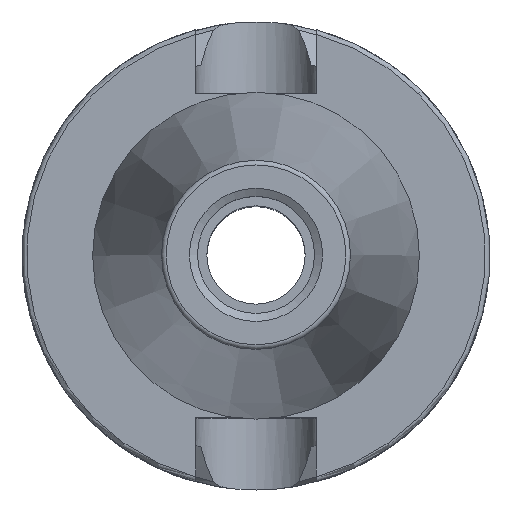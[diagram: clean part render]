
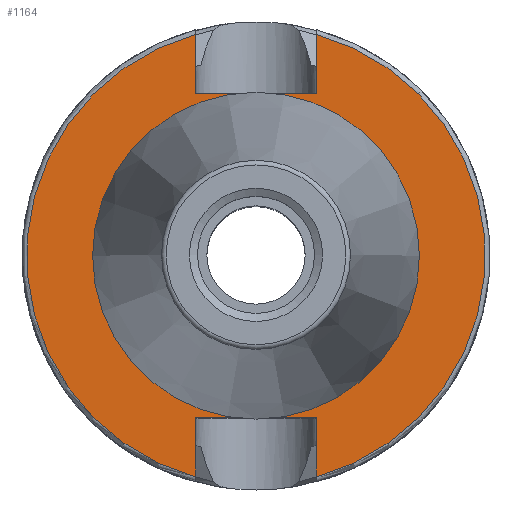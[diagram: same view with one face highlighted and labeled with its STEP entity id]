
A CAD part, top view. The second image highlights one B-rep face of the part: STEP entity #1164.
In plain terms, the highlighted planar face has unit normal (0, 0, 1).
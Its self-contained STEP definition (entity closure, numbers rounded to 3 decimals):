
#71=FACE_BOUND('',#230,.T.);
#91=PLANE('',#1288);
#159=FACE_OUTER_BOUND('',#229,.T.);
#229=EDGE_LOOP('',(#960,#961,#962,#963,#964,#965,#966,#967));
#230=EDGE_LOOP('',(#968));
#305=LINE('',#2315,#384);
#307=LINE('',#2364,#386);
#312=LINE('',#2395,#391);
#315=LINE('',#2403,#394);
#316=LINE('',#2407,#395);
#317=LINE('',#2408,#396);
#384=VECTOR('',#1483,10.);
#386=VECTOR('',#1497,10.);
#391=VECTOR('',#1520,10.);
#394=VECTOR('',#1525,10.);
#395=VECTOR('',#1528,10.);
#396=VECTOR('',#1529,10.);
#458=CIRCLE('',#1286,49.);
#459=CIRCLE('',#1289,49.);
#460=CIRCLE('',#1290,34.5);
#547=VERTEX_POINT('',#2312);
#548=VERTEX_POINT('',#2314);
#556=VERTEX_POINT('',#2352);
#557=VERTEX_POINT('',#2363);
#563=VERTEX_POINT('',#2381);
#564=VERTEX_POINT('',#2394);
#566=VERTEX_POINT('',#2404);
#567=VERTEX_POINT('',#2406);
#568=VERTEX_POINT('',#2409);
#687=EDGE_CURVE('',#548,#547,#305,.T.);
#698=EDGE_CURVE('',#557,#556,#307,.T.);
#708=EDGE_CURVE('',#548,#563,#458,.T.);
#709=EDGE_CURVE('',#564,#563,#312,.T.);
#713=EDGE_CURVE('',#547,#557,#315,.T.);
#714=EDGE_CURVE('',#566,#556,#459,.T.);
#715=EDGE_CURVE('',#566,#567,#316,.T.);
#716=EDGE_CURVE('',#567,#564,#317,.T.);
#717=EDGE_CURVE('',#568,#568,#460,.T.);
#960=ORIENTED_EDGE('',*,*,#708,.F.);
#961=ORIENTED_EDGE('',*,*,#687,.T.);
#962=ORIENTED_EDGE('',*,*,#713,.T.);
#963=ORIENTED_EDGE('',*,*,#698,.T.);
#964=ORIENTED_EDGE('',*,*,#714,.F.);
#965=ORIENTED_EDGE('',*,*,#715,.T.);
#966=ORIENTED_EDGE('',*,*,#716,.T.);
#967=ORIENTED_EDGE('',*,*,#709,.T.);
#968=ORIENTED_EDGE('',*,*,#717,.T.);
#1164=ADVANCED_FACE('',(#159,#71),#91,.T.);
#1286=AXIS2_PLACEMENT_3D('',#2392,#1516,#1517);
#1288=AXIS2_PLACEMENT_3D('',#2402,#1523,#1524);
#1289=AXIS2_PLACEMENT_3D('',#2405,#1526,#1527);
#1290=AXIS2_PLACEMENT_3D('',#2410,#1530,#1531);
#1483=DIRECTION('',(0.,1.,0.));
#1497=DIRECTION('',(0.,-1.,0.));
#1516=DIRECTION('center_axis',(0.,0.,-1.));
#1517=DIRECTION('ref_axis',(-1.,0.,0.));
#1520=DIRECTION('',(0.,1.,0.));
#1523=DIRECTION('center_axis',(0.,0.,1.));
#1524=DIRECTION('ref_axis',(1.,0.,0.));
#1525=DIRECTION('',(1.,0.,0.));
#1526=DIRECTION('center_axis',(0.,0.,-1.));
#1527=DIRECTION('ref_axis',(1.,0.,0.));
#1528=DIRECTION('',(0.,-1.,0.));
#1529=DIRECTION('',(-1.,0.,0.));
#1530=DIRECTION('center_axis',(0.,0.,-1.));
#1531=DIRECTION('ref_axis',(1.,0.,0.));
#2312=CARTESIAN_POINT('',(-12.85,-34.65,45.2));
#2314=CARTESIAN_POINT('',(-12.85,-47.285,45.2));
#2315=CARTESIAN_POINT('',(-12.85,-25.,45.2));
#2352=CARTESIAN_POINT('',(12.85,-47.285,45.2));
#2363=CARTESIAN_POINT('',(12.85,-34.65,45.2));
#2364=CARTESIAN_POINT('',(12.85,-25.,45.2));
#2381=CARTESIAN_POINT('',(-12.85,47.285,45.2));
#2392=CARTESIAN_POINT('Origin',(0.,0.,45.2));
#2394=CARTESIAN_POINT('',(-12.85,34.65,45.2));
#2395=CARTESIAN_POINT('',(-12.85,25.,45.2));
#2402=CARTESIAN_POINT('Origin',(50.,0.,45.2));
#2403=CARTESIAN_POINT('',(25.,-34.65,45.2));
#2404=CARTESIAN_POINT('',(12.85,47.285,45.2));
#2405=CARTESIAN_POINT('Origin',(0.,0.,45.2));
#2406=CARTESIAN_POINT('',(12.85,34.65,45.2));
#2407=CARTESIAN_POINT('',(12.85,25.,45.2));
#2408=CARTESIAN_POINT('',(25.,34.65,45.2));
#2409=CARTESIAN_POINT('',(-34.5,0.,45.2));
#2410=CARTESIAN_POINT('Origin',(0.,0.,45.2));
